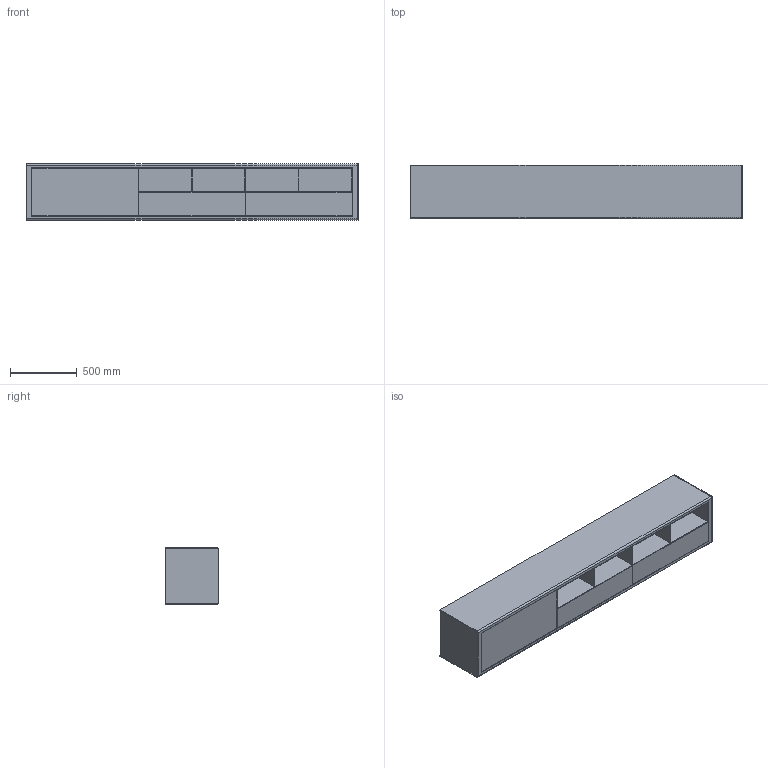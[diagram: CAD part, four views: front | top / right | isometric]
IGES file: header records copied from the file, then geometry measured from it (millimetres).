
Start section: Comment
Global section: file name: S36-H2-248-01.igs; native system:  By UGS Corp.; preprocessor: XPlus GENERIC/IGES 3.0; author: Author; organization: Title; date: 20141218.102410; units: inch
Bounding box: 2480 x 400 x 420 mm (x, y, z)
Surface area: 11923392.5 mm2 (no closed solid volume)
Topology: 0 solids, 0 shells, 70 faces, 348 edges, 348 vertices
Faces by surface type: bspline 70
